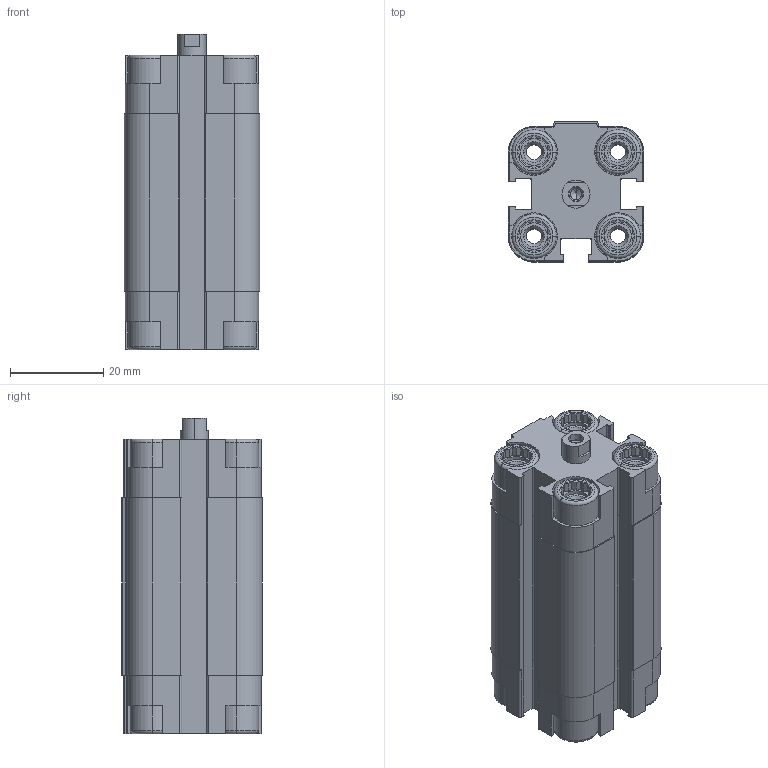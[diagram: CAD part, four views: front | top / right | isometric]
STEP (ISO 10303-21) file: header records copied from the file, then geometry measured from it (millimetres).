
FILE_DESCRIPTION (( 'STEP AP203' ), '1' );
FILE_NAME ('CDVU12-25F.STEP', '2020-03-30T14:52:10', ( '' ), ( '' ), 'SwSTEP 2.0', 'SolidWorks 2019', '' );
FILE_SCHEMA (( 'CONFIG_CONTROL_DESIGN' ));
Length unit declared in the file: millimetre
Products named in the file (1): CDVU12-25F
Bounding box: 29 x 30 x 67.5 mm (x, y, z)
Volume: 37624.9 mm3; surface area: 19214.2 mm2
Topology: 2 solids, 2 shells, 553 faces, 1474 edges, 959 vertices
Faces by surface type: plane 333, cylinder 158, cone 46, torus 16
Entity records: 17385 total; most frequent: CARTESIAN_POINT 3557, ORIENTED_EDGE 2936, DIRECTION 2776, EDGE_CURVE 1468, VERTEX_POINT 959, AXIS2_PLACEMENT_3D 946, LINE 884, VECTOR 884
